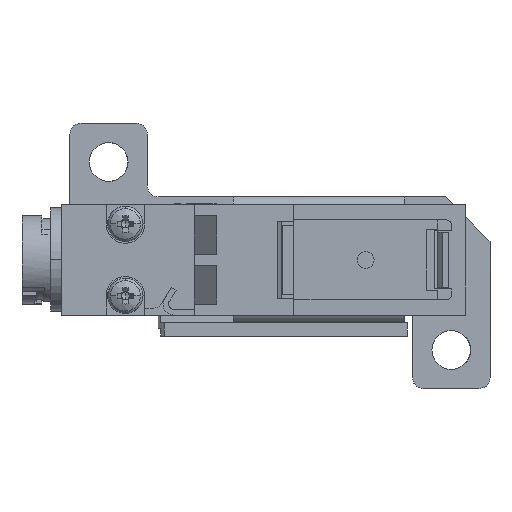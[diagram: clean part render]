
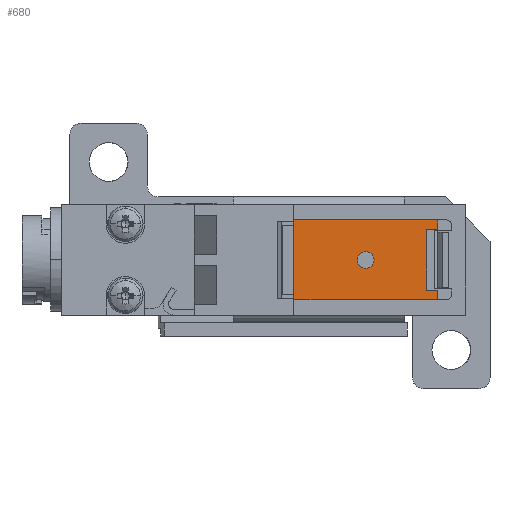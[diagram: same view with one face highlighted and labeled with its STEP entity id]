
A CAD part, left-side view. The second image highlights one B-rep face of the part: STEP entity #680.
In plain terms, the highlighted planar face has unit normal (-1, 0, 0) as drawn and (0, 0, 1) by its records, which use the part's own axes.
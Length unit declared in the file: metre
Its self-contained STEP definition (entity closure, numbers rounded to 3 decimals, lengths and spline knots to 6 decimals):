
#19 = EDGE_LOOP ( 'NONE', ( #9038, #14044 ) ) ;
#28 = DIRECTION ( 'NONE',  ( 0., 1., 0. ) ) ;
#409 = CARTESIAN_POINT ( 'NONE',  ( -0.003625, 0.0101, 0.006 ) ) ;
#418 = VERTEX_POINT ( 'NONE', #12274 ) ;
#494 = EDGE_CURVE ( 'NONE', #418, #1047, #15719, .T. ) ;
#596 = DIRECTION ( 'NONE',  ( -1., 0., 0. ) ) ;
#680 = ADVANCED_FACE ( 'NONE', ( #13133, #17724 ), #984, .F. ) ;
#682 = CARTESIAN_POINT ( 'NONE',  ( 0.003625, 0.0036, 0.006 ) ) ;
#906 = ORIENTED_EDGE ( 'NONE', *, *, #17871, .T. ) ;
#984 = PLANE ( 'NONE',  #10951 ) ;
#1047 = VERTEX_POINT ( 'NONE', #6668 ) ;
#1510 = EDGE_CURVE ( 'NONE', #3137, #17507, #16129, .T. ) ;
#1590 = CIRCLE ( 'NONE', #4184, 0.00075 ) ;
#1681 = CARTESIAN_POINT ( 'NONE',  ( -0.003625, 0.0036, 0.006 ) ) ;
#2030 = DIRECTION ( 'NONE',  ( 0., 0., 1. ) ) ;
#2390 = VERTEX_POINT ( 'NONE', #7586 ) ;
#2452 = DIRECTION ( 'NONE',  ( 1., 0., 0. ) ) ;
#2502 = CARTESIAN_POINT ( 'NONE',  ( 0.003188, 0.0036, 0.006 ) ) ;
#2590 = VERTEX_POINT ( 'NONE', #8994 ) ;
#2914 = ORIENTED_EDGE ( 'NONE', *, *, #14949, .T. ) ;
#3137 = VERTEX_POINT ( 'NONE', #1681 ) ;
#3168 = VECTOR ( 'NONE', #28, 1. ) ;
#3326 = AXIS2_PLACEMENT_3D ( 'NONE', #10293, #2030, #11670 ) ;
#3511 = CARTESIAN_POINT ( 'NONE',  ( 0., 0.0101, 0.006 ) ) ;
#3682 = ORIENTED_EDGE ( 'NONE', *, *, #15764, .F. ) ;
#3980 = EDGE_LOOP ( 'NONE', ( #906, #3682, #2914, #11760, #11886, #7361, #8006, #5380 ) ) ;
#4105 = CARTESIAN_POINT ( 'NONE',  ( -0.00275, 0.0036, 0.006 ) ) ;
#4184 = AXIS2_PLACEMENT_3D ( 'NONE', #3511, #13065, #4905 ) ;
#4477 = EDGE_CURVE ( 'NONE', #2390, #5663, #11347, .T. ) ;
#4700 = CARTESIAN_POINT ( 'NONE',  ( -0.00275, 0.0041, 0.006 ) ) ;
#4834 = VECTOR ( 'NONE', #2452, 1. ) ;
#4905 = DIRECTION ( 'NONE',  ( 1., 0., 0. ) ) ;
#4938 = VECTOR ( 'NONE', #8228, 1. ) ;
#4973 = CARTESIAN_POINT ( 'NONE',  ( 0.003625, 0.0101, 0.006 ) ) ;
#5012 = EDGE_CURVE ( 'NONE', #3137, #2390, #17361, .T. ) ;
#5295 = VERTEX_POINT ( 'NONE', #6667 ) ;
#5380 = ORIENTED_EDGE ( 'NONE', *, *, #1510, .T. ) ;
#5663 = VERTEX_POINT ( 'NONE', #15355 ) ;
#5802 = LINE ( 'NONE', #4973, #16265 ) ;
#6080 = DIRECTION ( 'NONE',  ( 0., 1., 0. ) ) ;
#6420 = VERTEX_POINT ( 'NONE', #8059 ) ;
#6667 = CARTESIAN_POINT ( 'NONE',  ( -0.00075, 0.0101, 0.006 ) ) ;
#6668 = CARTESIAN_POINT ( 'NONE',  ( 0.003625, 0.0036, 0.006 ) ) ;
#6864 = CARTESIAN_POINT ( 'NONE',  ( 0., 0.0046, 0.006 ) ) ;
#7361 = ORIENTED_EDGE ( 'NONE', *, *, #4477, .F. ) ;
#7508 = CIRCLE ( 'NONE', #3326, 0.00075 ) ;
#7586 = CARTESIAN_POINT ( 'NONE',  ( -0.003625, 0.0166, 0.006 ) ) ;
#7701 = VECTOR ( 'NONE', #11185, 1. ) ;
#8006 = ORIENTED_EDGE ( 'NONE', *, *, #5012, .F. ) ;
#8059 = CARTESIAN_POINT ( 'NONE',  ( 0.00075, 0.0101, 0.006 ) ) ;
#8228 = DIRECTION ( 'NONE',  ( -1., 0., 0. ) ) ;
#8467 = EDGE_CURVE ( 'NONE', #5295, #6420, #7508, .T. ) ;
#8578 = EDGE_CURVE ( 'NONE', #5663, #1047, #5802, .T. ) ;
#8994 = CARTESIAN_POINT ( 'NONE',  ( -0.00275, 0.0046, 0.006 ) ) ;
#9038 = ORIENTED_EDGE ( 'NONE', *, *, #11574, .F. ) ;
#9801 = LINE ( 'NONE', #4700, #17120 ) ;
#10293 = CARTESIAN_POINT ( 'NONE',  ( 0., 0.0101, 0.006 ) ) ;
#10951 = AXIS2_PLACEMENT_3D ( 'NONE', #682, #15982, #596 ) ;
#11185 = DIRECTION ( 'NONE',  ( 1., 0., 0. ) ) ;
#11347 = LINE ( 'NONE', #11802, #7701 ) ;
#11574 = EDGE_CURVE ( 'NONE', #6420, #5295, #1590, .T. ) ;
#11670 = DIRECTION ( 'NONE',  ( 1., 0., 0. ) ) ;
#11760 = ORIENTED_EDGE ( 'NONE', *, *, #494, .T. ) ;
#11802 = CARTESIAN_POINT ( 'NONE',  ( 0., 0.0166, 0.006 ) ) ;
#11840 = DIRECTION ( 'NONE',  ( 0., -1., 0. ) ) ;
#11886 = ORIENTED_EDGE ( 'NONE', *, *, #8578, .F. ) ;
#12274 = CARTESIAN_POINT ( 'NONE',  ( 0.00275, 0.0036, 0.006 ) ) ;
#12475 = VECTOR ( 'NONE', #15787, 1. ) ;
#13065 = DIRECTION ( 'NONE',  ( 0., 0., 1. ) ) ;
#13133 = FACE_BOUND ( 'NONE', #19, .T. ) ;
#14044 = ORIENTED_EDGE ( 'NONE', *, *, #8467, .F. ) ;
#14367 = DIRECTION ( 'NONE',  ( 0., -1., 0. ) ) ;
#14459 = CARTESIAN_POINT ( 'NONE',  ( 0.00275, 0.0046, 0.006 ) ) ;
#14949 = EDGE_CURVE ( 'NONE', #15526, #418, #16739, .T. ) ;
#15355 = CARTESIAN_POINT ( 'NONE',  ( 0.003625, 0.0166, 0.006 ) ) ;
#15526 = VERTEX_POINT ( 'NONE', #14459 ) ;
#15719 = LINE ( 'NONE', #2502, #4834 ) ;
#15764 = EDGE_CURVE ( 'NONE', #15526, #2590, #16277, .T. ) ;
#15765 = CARTESIAN_POINT ( 'NONE',  ( -0.003188, 0.0036, 0.006 ) ) ;
#15787 = DIRECTION ( 'NONE',  ( 1., 0., 0. ) ) ;
#15982 = DIRECTION ( 'NONE',  ( 0., 0., -1. ) ) ;
#16129 = LINE ( 'NONE', #15765, #12475 ) ;
#16265 = VECTOR ( 'NONE', #11840, 1. ) ;
#16277 = LINE ( 'NONE', #6864, #4938 ) ;
#16526 = VECTOR ( 'NONE', #14367, 1. ) ;
#16739 = LINE ( 'NONE', #17225, #16526 ) ;
#17120 = VECTOR ( 'NONE', #6080, 1. ) ;
#17225 = CARTESIAN_POINT ( 'NONE',  ( 0.00275, 0.0041, 0.006 ) ) ;
#17361 = LINE ( 'NONE', #409, #3168 ) ;
#17507 = VERTEX_POINT ( 'NONE', #4105 ) ;
#17724 = FACE_OUTER_BOUND ( 'NONE', #3980, .T. ) ;
#17871 = EDGE_CURVE ( 'NONE', #17507, #2590, #9801, .T. ) ;
